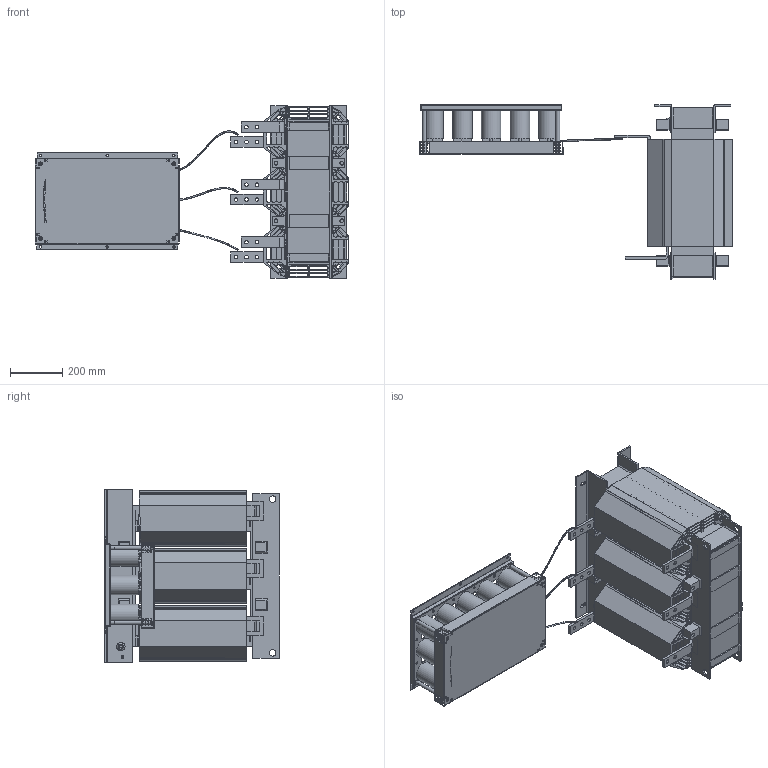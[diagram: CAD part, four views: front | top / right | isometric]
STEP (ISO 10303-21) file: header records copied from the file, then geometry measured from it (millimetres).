
FILE_DESCRIPTION((''),'2;1');
FILE_NAME('C:\Users\jingli.yang\Desktop\TEMP\FN5040-750-99\FN5040-750-99.stp','2013-10-10T20:31:46',('jingli.yang'),(''),'Autodesk Inventor 2013','Autodesk Inventor 2013','');
FILE_SCHEMA(('AUTOMOTIVE_DESIGN { 1 0 10303 214 1 1 1 1 }'));
Length unit declared in the file: millimetre
Products named in the file (4): FN5040-750-99; ASSEMBLY; CAPS; CABLES
Assembly tree (3 placements, depth 2):
  FN5040-750-99
    ASSEMBLY
    CAPS
    CABLES
Bounding box: 1200 x 666 x 660 mm (x, y, z)
Volume: 71551313.3 mm3; surface area: 11912693.8 mm2
Topology: 2 solids, 23 shells, 3484 faces, 10253 edges, 6717 vertices
Faces by surface type: plane 2292, cylinder 1071, cone 115, bspline 6
Full cylindrical faces by diameter (mm): 6.647 x8, 7.9 x1, 8 x1, 9 x22, 10 x35, 12 x30, 13 x18, 13.5 x6, 14 x14, 15 x4, 20 x1, 25 x34, 75 x15
Entity records: 129743 total; most frequent: CARTESIAN_POINT 31793, ORIENTED_EDGE 19790, DIRECTION 18973, EDGE_CURVE 9901, VECTOR 7427, LINE 7427, VERTEX_POINT 6666, AXIS2_PLACEMENT_3D 5773
